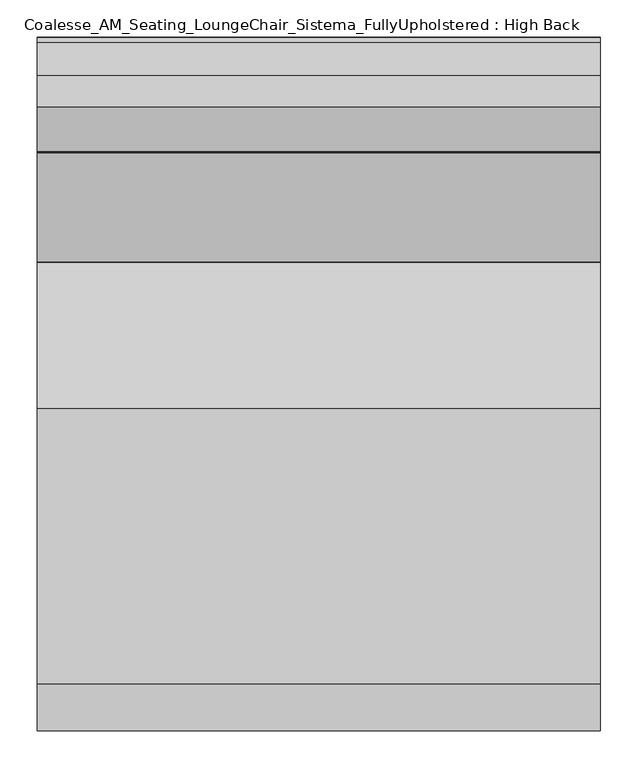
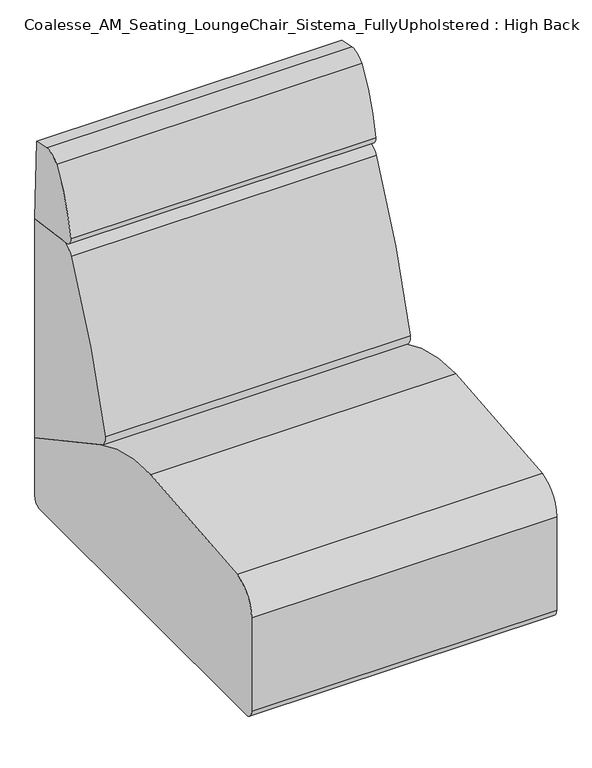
"""IFC4 building model written with IfcOpenShell, lengths in millimetres: furniture geometry, Coalesse_AM_Seating_LoungeChair_Sistema_FullyUpholstered : High Back."""

from ifc_helpers import new_model, si_unit, point, frame, frame_2d, origin, place, context, project, spatial, polyline, circle_curve, ellipse_curve, trimmed, segment, composite_curve, outline, extrude, source, transform, mapped, element, save
from ifc_brep_helpers import plane_surface, cylinder_surface, revolved_surface, advanced_brep


def coalesse_am_seating_loungechair_sistema_fullyupholstered_f212a09f(model_context):
    return source(origin(), model_context, "Body", "SolidModel", [
        advanced_brep(
        [(269.1276038, -379.5141881, 32.0111214), (305.4012134, -379.5141881, 32.0111214), (305.4012134, -379.5141881, 16.5557542), (269.1276038, -379.5141881, 16.5557542), (306.6948939, -379.5141881, 14.0167632), (267.8339233, -379.5141881, 14.0167632), (311.0668802, -379.5141881, 10.8824382), (263.4619371, -379.5141881, 10.8824382), (312.2530965, -379.5141881, 8.4680454), (262.2757207, -379.5141881, 8.4680454), (312.2530965, -379.5141881, 3.1081764), (262.2757207, -379.5141881, 3.1081764), (308.6567219, -379.5141881, 0.0), (265.8720953, -379.5141881, 0.0), (287.2644086, -379.5141881, 0.0), (287.2644086, -379.5141881, 34.4679682), (294.3791876, -379.5141881, 34.4679682), (280.1496296, -379.5141881, 34.4679682), (294.3791876, -379.5141881, 32.0111214), (280.1496296, -379.5141881, 32.0111214)],
        [
            (0, 1, circle_curve(frame((287.2644086, -379.5141881, 32.0111214), z_axis=(0.0, 0.0, -1.0), x_axis=(1.0, 0.0, 0.0)), 18.1368048)),
            (1, 2),
            (2, 3, circle_curve(frame((287.2644086, -379.5141881, 16.5557542), z_axis=(0.0, 0.0, 1.0), x_axis=(1.0, 0.0, 0.0)), 18.1368048)),
            (3, 0),
            (1, 0, circle_curve(frame((287.2644086, -379.5141881, 32.0111214), z_axis=(0.0, 0.0, -1.0), x_axis=(1.0, 0.0, 0.0)), 18.1368048)),
            (3, 2, circle_curve(frame((287.2644086, -379.5141881, 16.5557542), z_axis=(0.0, 0.0, 1.0), x_axis=(1.0, 0.0, 0.0)), 18.1368048)),
            (2, 4),
            (4, 5, circle_curve(frame((287.2644086, -379.5141881, 14.0167632), z_axis=(0.0, 0.0, 1.0), x_axis=(1.0, 0.0, 0.0)), 19.4304853)),
            (5, 3),
            (5, 4, circle_curve(frame((287.2644086, -379.5141881, 14.0167632), z_axis=(0.0, 0.0, 1.0), x_axis=(1.0, 0.0, 0.0)), 19.4304853)),
            (4, 6, circle_curve(frame((264.7129236, -379.5141881, -49.1591113), z_axis=(0.0, 1.0, 0.0), x_axis=(-1.0, 0.0, 0.0)), 75.8529957)),
            (6, 7, circle_curve(frame((287.2644086, -379.5141881, 10.8824382), z_axis=(0.0, 0.0, 1.0), x_axis=(1.0, 0.0, 0.0)), 23.8024715)),
            (7, 5, circle_curve(frame((309.8158936, -379.5141881, -49.1591113), z_axis=(0.0, 1.0, 0.0), x_axis=(1.0, 0.0, 0.0)), 75.8529957)),
            (7, 6, circle_curve(frame((287.2644086, -379.5141881, 10.8824382), z_axis=(0.0, 0.0, 1.0), x_axis=(1.0, 0.0, 0.0)), 23.8024715)),
            (6, 8, circle_curve(frame((309.2028933, -379.5141881, 8.4680454), z_axis=(0.0, 1.0, 0.0), x_axis=(-1.0, 0.0, 0.0)), 3.0502032)),
            (8, 9, circle_curve(frame((287.2644086, -379.5141881, 8.4680454), z_axis=(0.0, 0.0, 1.0), x_axis=(1.0, 0.0, 0.0)), 24.9886879)),
            (9, 7, circle_curve(frame((265.3259239, -379.5141881, 8.4680454), z_axis=(0.0, 1.0, 0.0), x_axis=(1.0, 0.0, 0.0)), 3.0502032)),
            (9, 8, circle_curve(frame((287.2644086, -379.5141881, 8.4680454), z_axis=(0.0, 0.0, 1.0), x_axis=(1.0, 0.0, 0.0)), 24.9886879)),
            (8, 10),
            (10, 11, circle_curve(frame((287.2644086, -379.5141881, 3.1081764), z_axis=(0.0, 0.0, 1.0), x_axis=(1.0, 0.0, 0.0)), 24.9886879)),
            (11, 9),
            (11, 10, circle_curve(frame((287.2644086, -379.5141881, 3.1081764), z_axis=(0.0, 0.0, 1.0), x_axis=(1.0, 0.0, 0.0)), 24.9886879)),
            (10, 12, circle_curve(frame((308.6567219, -379.5141881, 3.634715), z_axis=(0.0, 1.0, 0.0), x_axis=(-1.0, 0.0, 0.0)), 3.634715)),
            (12, 13, circle_curve(frame((287.2644086, -379.5141881, 0.0), z_axis=(0.0, 0.0, 1.0), x_axis=(1.0, 0.0, 0.0)), 21.3923133)),
            (13, 11, circle_curve(frame((265.8720953, -379.5141881, 3.634715), z_axis=(0.0, 1.0, 0.0), x_axis=(1.0, 0.0, 0.0)), 3.634715)),
            (13, 12, circle_curve(frame((287.2644086, -379.5141881, 0.0), z_axis=(0.0, 0.0, 1.0), x_axis=(1.0, 0.0, 0.0)), 21.3923133)),
            (12, 14),
            (14, 13),
            (15, 16),
            (16, 17, circle_curve(frame((287.2644086, -379.5141881, 34.4679682), z_axis=(0.0, 0.0, 1.0), x_axis=(1.0, 0.0, 0.0)), 7.114779)),
            (17, 15),
            (17, 16, circle_curve(frame((287.2644086, -379.5141881, 34.4679682), z_axis=(0.0, 0.0, 1.0), x_axis=(1.0, 0.0, 0.0)), 7.114779)),
            (16, 18),
            (18, 19, circle_curve(frame((287.2644086, -379.5141881, 32.0111214), z_axis=(0.0, 0.0, 1.0), x_axis=(1.0, 0.0, 0.0)), 7.114779)),
            (19, 17),
            (19, 18, circle_curve(frame((287.2644086, -379.5141881, 32.0111214), z_axis=(0.0, 0.0, 1.0), x_axis=(1.0, 0.0, 0.0)), 7.114779)),
            (18, 1),
            (0, 19),
        ],
        [
            cylinder_surface(frame((287.2644086, -379.5141881, 22.0491407), z_axis=(0.0, 0.0, 1.0), x_axis=(1.0, 0.0, 0.0)), 18.1368048),
            revolved_surface(polyline([(306.6948939, -379.5141881, 14.0167632), (305.4012134, -379.5141881, 16.5557542)]), (287.2644086, -379.5141881, 22.0491407), (0.0, 0.0, 1.0)),
            revolved_surface(trimmed(ellipse_curve(frame((264.7129236, -379.5141881, -49.1591113), z_axis=(0.0, -1.0, 0.0), x_axis=(-1.0, 0.0, 0.0)), 75.8529957, 75.8529957), [point((311.0668802, -379.5141881, 10.8824382))], [point((306.6948939, -379.5141881, 14.0167632))], True, "CARTESIAN"), (287.2644086, -379.5141881, 22.0491407), (0.0, 0.0, 1.0)),
            revolved_surface(trimmed(ellipse_curve(frame((309.2028933, -379.5141881, 8.4680454), z_axis=(0.0, -1.0, 0.0), x_axis=(-1.0, 0.0, 0.0)), 3.0502032, 3.0502032), [point((312.2530965, -379.5141881, 8.4680454))], [point((311.0668802, -379.5141881, 10.8824382))], True, "CARTESIAN"), (287.2644086, -379.5141881, 22.0491407), (0.0, 0.0, 1.0)),
            cylinder_surface(frame((287.2644086, -379.5141881, 22.0491407), z_axis=(0.0, 0.0, 1.0), x_axis=(1.0, 0.0, 0.0)), 24.9886879),
            revolved_surface(trimmed(ellipse_curve(frame((308.6567219, -379.5141881, 3.634715), z_axis=(0.0, -1.0, 0.0), x_axis=(-1.0, 0.0, 0.0)), 3.634715, 3.634715), [point((308.6567219, -379.5141881, 0.0))], [point((312.2530965, -379.5141881, 3.1081764))], True, "CARTESIAN"), (287.2644086, -379.5141881, 22.0491407), (0.0, 0.0, 1.0)),
            plane_surface(frame((287.2644086, -379.5141881, 0.0), z_axis=(0.0, 0.0, -1.0), x_axis=(1.0, 0.0, 0.0))),
            plane_surface(frame((287.2644086, -379.5141881, 34.4679682), z_axis=(0.0, 0.0, 1.0), x_axis=(1.0, 0.0, 0.0))),
            cylinder_surface(frame((287.2644086, -379.5141881, 22.0491407), z_axis=(0.0, 0.0, 1.0), x_axis=(1.0, 0.0, 0.0)), 7.114779),
            plane_surface(frame((287.2644086, -379.5141881, 32.0111214), z_axis=(0.0, 0.0, 1.0), x_axis=(1.0, 0.0, 0.0))),
        ],
        [
            (0, [[1, 2, 3, 4]]),
            (0, [[5, -4, 6, -2]]),
            (1, [[-3, 7, 8, 9]]),
            (1, [[-6, -9, 10, -7]]),
            (2, [[-8, 11, 12, 13]]),
            (2, [[-10, -13, 14, -11]]),
            (3, [[-12, 15, 16, 17]]),
            (3, [[-14, -17, 18, -15]]),
            (4, [[-16, 19, 20, 21]]),
            (4, [[-18, -21, 22, -19]]),
            (5, [[-20, 23, 24, 25]]),
            (5, [[-22, -25, 26, -23]]),
            (6, [[-24, 27, 28]]),
            (6, [[-26, -28, -27]]),
            (7, [[29, 30, 31]]),
            (7, [[-31, 32, -29]]),
            (8, [[-30, 33, 34, 35]]),
            (8, [[-32, -35, 36, -33]]),
            (9, [[-34, 37, -1, 38]]),
            (9, [[-36, -38, -5, -37]]),
        ],
    ),
        advanced_brep(
        [(-269.1276038, -379.5141881, 16.5557542), (-305.4012134, -379.5141881, 16.5557542), (-305.4012134, -379.5141881, 32.0111214), (-269.1276038, -379.5141881, 32.0111214), (-267.8339233, -379.5141881, 14.0167632), (-306.6948939, -379.5141881, 14.0167632), (-263.4619371, -379.5141881, 10.8824382), (-311.0668802, -379.5141881, 10.8824382), (-262.2757207, -379.5141881, 8.4680454), (-312.2530965, -379.5141881, 8.4680454), (-262.2757207, -379.5141881, 3.1081764), (-312.2530965, -379.5141881, 3.1081764), (-265.8720953, -379.5141881, 0.0), (-308.6567219, -379.5141881, 0.0), (-287.2644086, -379.5141881, 0.0), (-280.1496296, -379.5141881, 34.4679682), (-294.3791876, -379.5141881, 34.4679682), (-287.2644086, -379.5141881, 34.4679682), (-280.1496296, -379.5141881, 32.0111214), (-294.3791876, -379.5141881, 32.0111214)],
        [
            (0, 1, circle_curve(frame((-287.2644086, -379.5141881, 16.5557542), z_axis=(0.0, 0.0, 1.0), x_axis=(-1.0, 0.0, 0.0)), 18.1368048)),
            (1, 2),
            (2, 3, circle_curve(frame((-287.2644086, -379.5141881, 32.0111214), z_axis=(0.0, 0.0, -1.0), x_axis=(-1.0, 0.0, 0.0)), 18.1368048)),
            (3, 0),
            (1, 0, circle_curve(frame((-287.2644086, -379.5141881, 16.5557542), z_axis=(0.0, 0.0, 1.0), x_axis=(-1.0, 0.0, 0.0)), 18.1368048)),
            (3, 2, circle_curve(frame((-287.2644086, -379.5141881, 32.0111214), z_axis=(0.0, 0.0, -1.0), x_axis=(-1.0, 0.0, 0.0)), 18.1368048)),
            (4, 5, circle_curve(frame((-287.2644086, -379.5141881, 14.0167632), z_axis=(0.0, 0.0, 1.0), x_axis=(-1.0, 0.0, 0.0)), 19.4304853)),
            (5, 1),
            (0, 4),
            (5, 4, circle_curve(frame((-287.2644086, -379.5141881, 14.0167632), z_axis=(0.0, 0.0, 1.0), x_axis=(-1.0, 0.0, 0.0)), 19.4304853)),
            (6, 7, circle_curve(frame((-287.2644086, -379.5141881, 10.8824382), z_axis=(0.0, 0.0, 1.0), x_axis=(-1.0, 0.0, 0.0)), 23.8024715)),
            (7, 5, circle_curve(frame((-264.7129236, -379.5141881, -49.1591113), z_axis=(0.0, 1.0, 0.0), x_axis=(1.0, 0.0, 0.0)), 75.8529957)),
            (4, 6, circle_curve(frame((-309.8158936, -379.5141881, -49.1591113), z_axis=(0.0, 1.0, 0.0), x_axis=(-1.0, 0.0, 0.0)), 75.8529957)),
            (7, 6, circle_curve(frame((-287.2644086, -379.5141881, 10.8824382), z_axis=(0.0, 0.0, 1.0), x_axis=(-1.0, 0.0, 0.0)), 23.8024715)),
            (8, 9, circle_curve(frame((-287.2644086, -379.5141881, 8.4680454), z_axis=(0.0, 0.0, 1.0), x_axis=(-1.0, 0.0, 0.0)), 24.9886879)),
            (9, 7, circle_curve(frame((-309.2028933, -379.5141881, 8.4680454), z_axis=(0.0, 1.0, 0.0), x_axis=(1.0, 0.0, 0.0)), 3.0502032)),
            (6, 8, circle_curve(frame((-265.3259239, -379.5141881, 8.4680454), z_axis=(0.0, 1.0, 0.0), x_axis=(-1.0, 0.0, 0.0)), 3.0502032)),
            (9, 8, circle_curve(frame((-287.2644086, -379.5141881, 8.4680454), z_axis=(0.0, 0.0, 1.0), x_axis=(-1.0, 0.0, 0.0)), 24.9886879)),
            (10, 11, circle_curve(frame((-287.2644086, -379.5141881, 3.1081764), z_axis=(0.0, 0.0, 1.0), x_axis=(-1.0, 0.0, 0.0)), 24.9886879)),
            (11, 9),
            (8, 10),
            (11, 10, circle_curve(frame((-287.2644086, -379.5141881, 3.1081764), z_axis=(0.0, 0.0, 1.0), x_axis=(-1.0, 0.0, 0.0)), 24.9886879)),
            (12, 13, circle_curve(frame((-287.2644086, -379.5141881, 0.0), z_axis=(0.0, 0.0, 1.0), x_axis=(-1.0, 0.0, 0.0)), 21.3923133)),
            (13, 11, circle_curve(frame((-308.6567219, -379.5141881, 3.634715), z_axis=(0.0, 1.0, 0.0), x_axis=(1.0, 0.0, 0.0)), 3.634715)),
            (10, 12, circle_curve(frame((-265.8720953, -379.5141881, 3.634715), z_axis=(0.0, 1.0, 0.0), x_axis=(-1.0, 0.0, 0.0)), 3.634715)),
            (13, 12, circle_curve(frame((-287.2644086, -379.5141881, 0.0), z_axis=(0.0, 0.0, 1.0), x_axis=(-1.0, 0.0, 0.0)), 21.3923133)),
            (14, 13),
            (12, 14),
            (15, 16, circle_curve(frame((-287.2644086, -379.5141881, 34.4679682), z_axis=(0.0, 0.0, 1.0), x_axis=(-1.0, 0.0, 0.0)), 7.114779)),
            (16, 17),
            (17, 15),
            (16, 15, circle_curve(frame((-287.2644086, -379.5141881, 34.4679682), z_axis=(0.0, 0.0, 1.0), x_axis=(-1.0, 0.0, 0.0)), 7.114779)),
            (18, 19, circle_curve(frame((-287.2644086, -379.5141881, 32.0111214), z_axis=(0.0, 0.0, 1.0), x_axis=(-1.0, 0.0, 0.0)), 7.114779)),
            (19, 16),
            (15, 18),
            (19, 18, circle_curve(frame((-287.2644086, -379.5141881, 32.0111214), z_axis=(0.0, 0.0, 1.0), x_axis=(-1.0, 0.0, 0.0)), 7.114779)),
            (2, 19),
            (18, 3),
        ],
        [
            cylinder_surface(frame((-287.2644086, -379.5141881, 22.0491407), z_axis=(0.0, 0.0, -1.0), x_axis=(-1.0, 0.0, 0.0)), 18.1368048),
            revolved_surface(polyline([(-305.4012134, -379.5141881, 16.5557542), (-306.6948939, -379.5141881, 14.0167632)]), (-287.2644086, -379.5141881, 22.0491407), (0.0, 0.0, -1.0)),
            revolved_surface(trimmed(ellipse_curve(frame((-264.7129236, -379.5141881, -49.1591113), z_axis=(0.0, -1.0, 0.0), x_axis=(1.0, 0.0, 0.0)), 75.8529957, 75.8529957), [point((-306.6948939, -379.5141881, 14.0167632))], [point((-311.0668802, -379.5141881, 10.8824382))], True, "CARTESIAN"), (-287.2644086, -379.5141881, 22.0491407), (0.0, 0.0, -1.0)),
            revolved_surface(trimmed(ellipse_curve(frame((-309.2028933, -379.5141881, 8.4680454), z_axis=(0.0, -1.0, 0.0), x_axis=(1.0, 0.0, 0.0)), 3.0502032, 3.0502032), [point((-311.0668802, -379.5141881, 10.8824382))], [point((-312.2530965, -379.5141881, 8.4680454))], True, "CARTESIAN"), (-287.2644086, -379.5141881, 22.0491407), (0.0, 0.0, -1.0)),
            cylinder_surface(frame((-287.2644086, -379.5141881, 22.0491407), z_axis=(0.0, 0.0, -1.0), x_axis=(-1.0, 0.0, 0.0)), 24.9886879),
            revolved_surface(trimmed(ellipse_curve(frame((-308.6567219, -379.5141881, 3.634715), z_axis=(0.0, -1.0, 0.0), x_axis=(1.0, 0.0, 0.0)), 3.634715, 3.634715), [point((-312.2530965, -379.5141881, 3.1081764))], [point((-308.6567219, -379.5141881, 0.0))], True, "CARTESIAN"), (-287.2644086, -379.5141881, 22.0491407), (0.0, 0.0, -1.0)),
            plane_surface(frame((-287.2644086, -379.5141881, 0.0), z_axis=(0.0, 0.0, -1.0), x_axis=(-1.0, 0.0, 0.0))),
            plane_surface(frame((-287.2644086, -379.5141881, 34.4679682), z_axis=(0.0, 0.0, 1.0), x_axis=(-1.0, 0.0, 0.0))),
            cylinder_surface(frame((-287.2644086, -379.5141881, 22.0491407), z_axis=(0.0, 0.0, -1.0), x_axis=(-1.0, 0.0, 0.0)), 7.114779),
            plane_surface(frame((-287.2644086, -379.5141881, 32.0111214), z_axis=(0.0, 0.0, 1.0), x_axis=(-1.0, 0.0, 0.0))),
        ],
        [
            (0, [[1, 2, 3, 4]]),
            (0, [[5, -4, 6, -2]]),
            (1, [[7, 8, -1, 9]]),
            (1, [[10, -9, -5, -8]]),
            (2, [[11, 12, -7, 13]]),
            (2, [[14, -13, -10, -12]]),
            (3, [[15, 16, -11, 17]]),
            (3, [[18, -17, -14, -16]]),
            (4, [[19, 20, -15, 21]]),
            (4, [[22, -21, -18, -20]]),
            (5, [[23, 24, -19, 25]]),
            (5, [[26, -25, -22, -24]]),
            (6, [[27, -23, 28]]),
            (6, [[-28, -26, -27]]),
            (7, [[29, 30, 31]]),
            (7, [[32, -31, -30]]),
            (8, [[33, 34, -29, 35]]),
            (8, [[36, -35, -32, -34]]),
            (9, [[-3, 37, -33, 38]]),
            (9, [[-6, -38, -36, -37]]),
        ],
    ),
        extrude(outline(composite_curve([segment(polyline([(457.4581935, 985.8889261), (464.6438301, 780.1192184), (327.9700683, 799.327463)]), True, "CONTINUOUS"), segment(trimmed(circle_curve(frame_2d((330.6213159, 818.1920697)), 19.05), [point((327.9700683, 799.327463))], [point((311.7521971, 820.8110119))], False, "CARTESIAN"), True, "CONTINUOUS"), segment(trimmed(circle_curve(frame_2d((679.5815991, 769.7580741)), 371.3554516), [point((311.7521971, 820.8110119))], [point((372.1246101, 978.0249014))], False, "CARTESIAN"), True, "CONTINUOUS"), segment(trimmed(circle_curve(frame_2d((405.8944569, 955.1497055)), 40.7881985), [point((372.1246101, 978.0249014))], [point((414.3748002, 995.046584))], False, "CARTESIAN"), True, "CONTINUOUS"), segment(polyline([(414.3748002, 995.046584), (457.4581935, 985.8889261)]), True, "CONTINUOUS")], self_intersect=False)), frame((-374.8034773, 0.0, 0.0), z_axis=(1.0, 0.0, 0.0), x_axis=(0.0, 1.0, 0.0)), (0.0, 0.0, 1.0), 752.2863161),
        extrude(outline(composite_curve([segment(polyline([(464.6438301, 780.1192184), (464.6438301, 208.8788212), (177.4990556, 364.1028799)]), True, "CONTINUOUS"), segment(trimmed(circle_curve(frame_2d((189.5778307, 386.4470781)), 25.4), [point((177.4990556, 364.1028799))], [point((164.9600055, 392.7018911))], False, "CARTESIAN"), True, "CONTINUOUS"), segment(trimmed(circle_curve(frame_2d((1918.112812, -52.7331923)), 1808.8552115), [point((164.9600055, 392.7018911))], [point((310.2880264, 776.0349508))], False, "CARTESIAN"), True, "CONTINUOUS"), segment(trimmed(circle_curve(frame_2d((344.1537133, 758.5785695)), 38.1), [point((310.2880264, 776.0349508))], [point((349.4562085, 796.3077829))], False, "CARTESIAN"), True, "CONTINUOUS"), segment(polyline([(349.4562085, 796.3077829), (464.6438301, 780.1192184)]), True, "CONTINUOUS")], self_intersect=False)), frame((-374.8034773, 0.0, 0.0), z_axis=(1.0, 0.0, 0.0), x_axis=(0.0, 1.0, 0.0)), (0.0, 0.0, 1.0), 752.2863161),
        extrude(outline(composite_curve([segment(trimmed(circle_curve(frame_2d((-438.9184381, 56.7777814)), 22.352), [point((-438.9184381, 34.4257814))], [point((-461.2704381, 56.7777814))], False, "CARTESIAN"), True, "CONTINUOUS"), segment(polyline([(-461.2704381, 56.7777814), (-461.2704381, 301.4421993)]), True, "CONTINUOUS"), segment(trimmed(circle_curve(frame_2d((-385.0704381, 301.4421993)), 76.2), [point((-461.2704381, 301.4421993))], [point((-398.9277015, 376.3716077))], False, "CARTESIAN"), True, "CONTINUOUS"), segment(trimmed(circle_curve(frame_2d((2.2103559, -1792.6740646)), 2205.8265729), [point((-398.9277015, 376.3716077))], [point((-31.1968175, 412.8995185))], False, "CARTESIAN"), True, "CONTINUOUS"), segment(trimmed(circle_curve(frame_2d((-24.5128424, -28.3829182)), 441.333054), [point((-31.1968175, 412.8995185))], [point((184.5757008, 360.2774035))], False, "CARTESIAN"), True, "CONTINUOUS"), segment(polyline([(184.5757008, 360.2774035), (464.6438301, 208.8788212), (464.6438301, 56.7429806)]), True, "CONTINUOUS"), segment(trimmed(circle_curve(frame_2d((442.3266309, 56.7429806)), 22.3171991), [point((464.6438301, 56.7429806))], [point((442.3266309, 34.4257814))], False, "CARTESIAN"), True, "CONTINUOUS"), segment(polyline([(442.3266309, 34.4257814), (-438.9184381, 34.4257814)]), True, "CONTINUOUS")], self_intersect=False)), frame((-374.8034773, 0.0, 0.0), z_axis=(1.0, 0.0, 0.0), x_axis=(0.0, 1.0, 0.0)), (0.0, 0.0, 1.0), 752.2863161),
    ])


if __name__ == "__main__":
    model = new_model("IFC4")
    model_context = context("Model", 3, world=origin())
    ifc_project = project(units=[si_unit("LENGTHUNIT", "METRE", prefix="MILLI")], contexts=[model_context])
    site = spatial("IfcSite", under=ifc_project)
    building = spatial("IfcBuilding", under=site)
    placement = place(None, origin())
    coalesse_am_seating_loungechair_sistema_fullyupholstered_shape = coalesse_am_seating_loungechair_sistema_fullyupholstered_f212a09f(model_context)
    element("IfcFurniture", 1, ObjectType="Coalesse_AM_Seating_LoungeChair_Sistema_FullyUpholstered : High Back", at=placement, inside=building, context=model_context, shape_type="MappedRepresentation", body=[
        mapped(coalesse_am_seating_loungechair_sistema_fullyupholstered_shape, transform((0.0, 0.0, 0.0), x_axis=(1.0, 0.0, 0.0), y_axis=(0.0, 1.0, 0.0), z_axis=(0.0, 0.0, 1.0))),
    ])
    save(model, "model.ifc")
